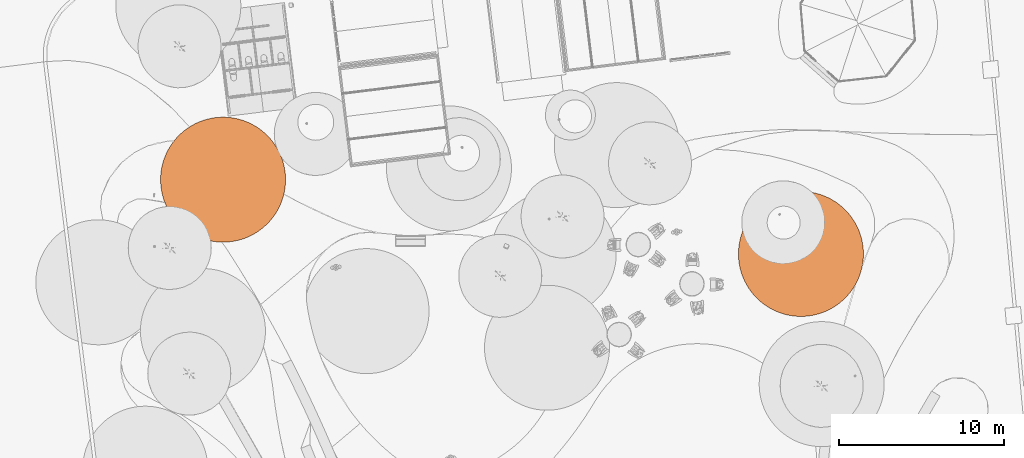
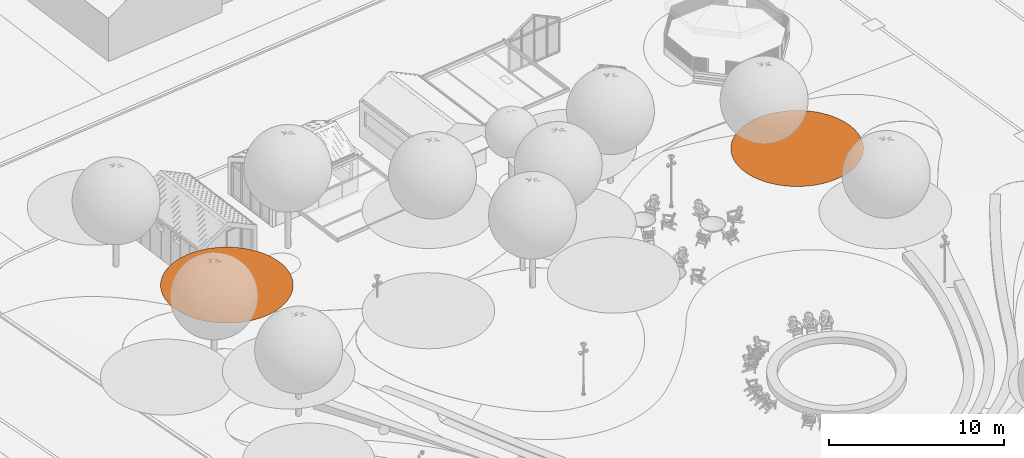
# One storey, part 73 of 75: 2 proxies.
"""IFC2X3 building model written with IfcOpenShell, lengths in metres."""

from ifc_helpers import new_model, entity, si_unit, converted_unit, derived_unit, direction, frame, origin, place, context, subcontext, project, spatial, face_set, surface_model, source, transform, mapped, material, type_object, type_shapes, element, save


model = new_model("IFC2X3")

# Units and contexts
model_context = context("Model", 3, precision=1e-05, world=origin(), true_north=direction((6.123031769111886e-17, 1.0)))
body_context = subcontext(model_context, "Body", "Model", "MODEL_VIEW")
ifc_project = project(units=[si_unit("LENGTHUNIT", "METRE"), si_unit("AREAUNIT", "SQUARE_METRE"), si_unit("VOLUMEUNIT", "CUBIC_METRE"), converted_unit("PLANEANGLEUNIT", "DEGREE", entity("IfcRatioMeasure", 0.017453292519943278), si_unit("PLANEANGLEUNIT", "RADIAN"), dimensions=[0, 0, 0, 0, 0, 0, 0]), si_unit("MASSUNIT", "GRAM", prefix="KILO"), derived_unit("MASSDENSITYUNIT", [(si_unit("MASSUNIT", "GRAM", prefix="KILO"), 1), (si_unit("LENGTHUNIT", "METRE"), -3)]), derived_unit("IONCONCENTRATIONUNIT", [(si_unit("MASSUNIT", "GRAM", prefix="KILO"), 1), (si_unit("LENGTHUNIT", "METRE"), -3)]), derived_unit("MOMENTOFINERTIAUNIT", [(si_unit("LENGTHUNIT", "METRE"), 4)]), si_unit("TIMEUNIT", "SECOND"), si_unit("FREQUENCYUNIT", "HERTZ"), si_unit("THERMODYNAMICTEMPERATUREUNIT", "DEGREE_CELSIUS"), derived_unit("THERMALTRANSMITTANCEUNIT", [(si_unit("MASSUNIT", "GRAM", prefix="KILO"), 1), (si_unit("THERMODYNAMICTEMPERATUREUNIT", "KELVIN"), -1), (si_unit("TIMEUNIT", "SECOND"), -3)]), derived_unit("THERMALCONDUCTANCEUNIT", [(si_unit("MASSUNIT", "GRAM", prefix="KILO"), 1), (si_unit("THERMODYNAMICTEMPERATUREUNIT", "KELVIN"), -1), (si_unit("TIMEUNIT", "SECOND"), -3), (si_unit("LENGTHUNIT", "METRE"), 1)]), derived_unit("VOLUMETRICFLOWRATEUNIT", [(si_unit("LENGTHUNIT", "METRE"), 3), (si_unit("TIMEUNIT", "SECOND"), -1)]), derived_unit("MASSFLOWRATEUNIT", [(si_unit("MASSUNIT", "GRAM", prefix="KILO"), 1), (si_unit("TIMEUNIT", "SECOND"), -1)]), derived_unit("ROTATIONALFREQUENCYUNIT", [(si_unit("TIMEUNIT", "SECOND"), -1)]), si_unit("ELECTRICCURRENTUNIT", "AMPERE"), si_unit("ELECTRICVOLTAGEUNIT", "VOLT"), si_unit("POWERUNIT", "WATT"), si_unit("FORCEUNIT", "NEWTON", prefix="KILO"), si_unit("ILLUMINANCEUNIT", "LUX"), si_unit("LUMINOUSFLUXUNIT", "LUMEN"), si_unit("LUMINOUSINTENSITYUNIT", "CANDELA"), derived_unit("USERDEFINED", [(si_unit("MASSUNIT", "GRAM", prefix="KILO"), -1), (si_unit("LENGTHUNIT", "METRE"), -2), (si_unit("TIMEUNIT", "SECOND"), 3), (si_unit("LUMINOUSFLUXUNIT", "LUMEN"), 1)]), derived_unit("USERDEFINED", [(si_unit("MASSUNIT", "GRAM", prefix="KILO"), 1), (si_unit("TIMEUNIT", "SECOND"), -3), (si_unit("LENGTHUNIT", "METRE"), 3), (si_unit("ELECTRICCURRENTUNIT", "AMPERE"), -2)]), derived_unit("SOUNDPOWERUNIT", [(si_unit("MASSUNIT", "GRAM", prefix="KILO"), 1), (si_unit("TIMEUNIT", "SECOND"), -3), (si_unit("LENGTHUNIT", "METRE"), 2)]), derived_unit("SOUNDPRESSUREUNIT", [(si_unit("MASSUNIT", "GRAM", prefix="KILO"), 1), (si_unit("LENGTHUNIT", "METRE"), -1), (si_unit("TIMEUNIT", "SECOND"), -2)]), derived_unit("LINEARVELOCITYUNIT", [(si_unit("LENGTHUNIT", "METRE"), 1), (si_unit("TIMEUNIT", "SECOND"), -1)]), si_unit("PRESSUREUNIT", "PASCAL"), derived_unit("USERDEFINED", [(si_unit("MASSUNIT", "GRAM", prefix="KILO"), 1), (si_unit("LENGTHUNIT", "METRE"), -2), (si_unit("TIMEUNIT", "SECOND"), -2)]), derived_unit("LINEARFORCEUNIT", [(si_unit("MASSUNIT", "GRAM", prefix="KILO"), 1), (si_unit("TIMEUNIT", "SECOND"), -2)]), derived_unit("PLANARFORCEUNIT", [(si_unit("MASSUNIT", "GRAM", prefix="KILO"), 1), (si_unit("LENGTHUNIT", "METRE"), -1), (si_unit("TIMEUNIT", "SECOND"), -2)]), derived_unit("SPECIFICHEATCAPACITYUNIT", [(si_unit("THERMODYNAMICTEMPERATUREUNIT", "KELVIN"), -1), (si_unit("LENGTHUNIT", "METRE"), 2), (si_unit("TIMEUNIT", "SECOND"), -2)]), derived_unit("HEATINGVALUEUNIT", [(si_unit("LENGTHUNIT", "METRE"), 2), (si_unit("TIMEUNIT", "SECOND"), -2)]), derived_unit("VAPORPERMEABILITYUNIT", [(si_unit("LENGTHUNIT", "METRE"), -1), (si_unit("TIMEUNIT", "SECOND"), 1)]), derived_unit("DYNAMICVISCOSITYUNIT", [(si_unit("MASSUNIT", "GRAM", prefix="KILO"), 1), (si_unit("TIMEUNIT", "SECOND"), -1), (si_unit("LENGTHUNIT", "METRE"), -1)]), derived_unit("THERMALEXPANSIONCOEFFICIENTUNIT", [(si_unit("THERMODYNAMICTEMPERATUREUNIT", "KELVIN"), -1)]), derived_unit("MODULUSOFELASTICITYUNIT", [(si_unit("MASSUNIT", "GRAM", prefix="KILO"), 1), (si_unit("LENGTHUNIT", "METRE"), -1), (si_unit("TIMEUNIT", "SECOND"), -2)]), derived_unit("ISOTHERMALMOISTURECAPACITYUNIT", [(si_unit("LENGTHUNIT", "METRE"), 3), (si_unit("MASSUNIT", "GRAM", prefix="KILO"), -1)]), derived_unit("MOISTUREDIFFUSIVITYUNIT", [(si_unit("TIMEUNIT", "SECOND"), -1), (si_unit("LENGTHUNIT", "METRE"), 2)])], contexts=[model_context])

# Site, building, storey
site_placement = place(None, origin())
site = spatial("IfcSite", under=ifc_project, at=site_placement, Name="Default", CompositionType="ELEMENT")
building_placement = place(site_placement, origin())
building = spatial("IfcBuilding", under=site, at=building_placement, Name="Projeto", CompositionType="ELEMENT")
storey_placement = place(building_placement, origin())
storey = spatial("IfcBuildingStorey", under=building, at=storey_placement, Name="Nível 1", CompositionType="ELEMENT", Elevation=0.0)

# Proxies
ifc_material = material(Name="<Unnamed>")
building_element_proxy_type = type_object("IfcBuildingElementProxyType", Name="Arvore simplificada:Arvore simplificada", PredefinedType="NOTDEFINED", material=ifc_material)
shared_shape = source(origin(), body_context, "Body", "SurfaceModel", [
    surface_model("IfcFaceBasedSurfaceModel", [(-3.9544974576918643, -0.18317979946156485, 0.0), (-3.9483138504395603, -0.3996342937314, 0.0), (-3.929783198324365, -0.6153827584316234, 0.0), (-3.8989659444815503, -0.8297214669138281, 0.0), (-3.855962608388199, -1.0419512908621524, 0.0), (-3.8009134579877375, -1.2513799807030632, 0.0), (-3.733998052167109, -1.4573244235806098, 0.0), (-3.655434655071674, -1.6591128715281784, 0.0), (-3.5654795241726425, -1.8560871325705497, 0.0), (-3.4644260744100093, -2.0476047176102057, 0.0), (-3.3526039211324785, -2.2330409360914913, 0.0), (-3.2303778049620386, -2.411790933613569, 0.0), (-3.098146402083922, -2.583271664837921, 0.0), (-2.9563410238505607, -2.7469237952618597, 0.0), (-2.8054242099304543, -2.9022135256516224, 0.0), (-2.6458882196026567, -3.048634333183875, 0.0), (-2.4782534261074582, -3.1857086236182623, 0.0), (-2.3030666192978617, -3.3129892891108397, 0.0), (-2.12089922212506, -3.430061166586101, 0.0), (-1.93234542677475, -3.5365423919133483, 0.0), (-1.7380202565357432, -3.632085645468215, 0.0), (-1.5385575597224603, -3.7163792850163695, 0.0), (-1.3346079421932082, -3.789148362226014, 0.0), (-1.1268366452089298, -3.8501555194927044, 0.0), (-0.9159213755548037, -3.8992017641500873, 0.0), (-0.7025500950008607, -3.9361271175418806, 0.0), (-0.48741877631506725, -3.9608111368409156, 0.0), (-0.2712291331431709, -3.9731733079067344, 0.0), (-0.054686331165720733, -3.9731733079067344, 0.0), (0.16150331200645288, -3.9608111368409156, 0.0), (0.3766346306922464, -3.9361271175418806, 0.0), (0.5900059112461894, -3.8992017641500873, 0.0), (0.8009211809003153, -3.8501555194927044, 0.0), (1.0086924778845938, -3.789148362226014, 0.0), (1.212642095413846, -3.7163792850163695, 0.0), (1.4121047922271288, -3.632085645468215, 0.0), (1.6064299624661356, -3.5365423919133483, 0.0), (1.7949837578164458, -3.430061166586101, 0.0), (1.9771511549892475, -3.3129892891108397, 0.0), (2.152337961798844, -3.1857086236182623, 0.0), (2.3199727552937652, -3.048634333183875, 0.0), (2.479508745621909, -2.9022135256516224, 0.0), (2.6304255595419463, -2.7469237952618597, 0.0), (2.7722309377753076, -2.583271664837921, 0.0), (2.9044623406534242, -2.411790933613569, 0.0), (3.026688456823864, -2.2330409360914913, 0.0), (3.138510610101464, -2.0476047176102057, 0.0), (3.239564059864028, -1.8560871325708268, 0.0), (3.3295191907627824, -1.6591128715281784, 0.0), (3.4080825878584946, -1.4573244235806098, 0.0), (3.474997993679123, -1.2513799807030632, 0.0), (3.5300471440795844, -1.0419512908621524, 0.0), (3.573050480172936, -0.8297214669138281, 0.0), (3.6038677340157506, -0.6153827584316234, 0.0), (3.622398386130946, -0.3996342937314, 0.0), (3.62858199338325, -0.18317979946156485, 0.0), (3.622398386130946, 0.03327469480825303, 0.0), (3.6038677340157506, 0.24902315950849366, 0.0), (3.573050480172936, 0.4633618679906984, 0.0), (3.5300471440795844, 0.6755916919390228, 0.0), (3.474997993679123, 0.8850203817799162, 0.0), (3.4080825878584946, 1.0909648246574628, 0.0), (3.3295191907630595, 1.2927532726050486, 0.0), (3.239564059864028, 1.4897275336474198, 0.0), (3.138510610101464, 1.6812451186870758, 0.0), (3.026688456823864, 1.8666813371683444, 0.0), (2.9044623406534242, 2.0454313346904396, 0.0), (2.7722309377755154, 2.2169120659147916, 0.0), (2.6304255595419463, 2.38056419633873, 0.0), (2.479508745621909, 2.535853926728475, 0.0), (2.3199727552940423, 2.682274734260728, 0.0), (2.152337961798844, 2.819349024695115, 0.0), (1.9771511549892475, 2.946629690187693, 0.0), (1.7949837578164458, 3.063701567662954, 0.0), (1.6064299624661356, 3.1701827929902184, 0.0), (1.4121047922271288, 3.265726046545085, 0.0), (1.212642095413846, 3.3500196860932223, 0.0), (1.0086924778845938, 3.422788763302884, 0.0), (0.8009211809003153, 3.4837959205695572, 0.0), (0.5900059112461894, 3.5328421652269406, 0.0), (0.3766346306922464, 3.5697675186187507, 0.0), (0.16150331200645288, 3.5944515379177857, 0.0), (-0.05468633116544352, 3.606813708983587, 0.0), (-0.27122913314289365, 3.606813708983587, 0.0), (-0.48741877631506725, 3.5944515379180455, 0.0), (-0.7025500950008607, 3.5697675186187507, 0.0), (-0.9159213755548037, 3.5328421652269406, 0.0), (-1.1268366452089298, 3.4837959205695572, 0.0), (-1.3346079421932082, 3.422788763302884, 0.0), (-1.5385575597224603, 3.3500196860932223, 0.0), (-1.7380202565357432, 3.265726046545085, 0.0), (-1.93234542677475, 3.1701827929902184, 0.0), (-2.12089922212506, 3.063701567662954, 0.0), (-2.3030666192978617, 2.946629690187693, 0.0), (-2.4782534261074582, 2.819349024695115, 0.0), (-2.6458882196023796, 2.682274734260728, 0.0), (-2.8054242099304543, 2.535853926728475, 0.0), (-2.9563410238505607, 2.38056419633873, 0.0), (-3.098146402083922, 2.2169120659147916, 0.0), (-3.2303778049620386, 2.0454313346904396, 0.0), (-3.3526039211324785, 1.8666813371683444, 0.0), (-3.4644260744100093, 1.6812451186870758, 0.0), (-3.5654795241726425, 1.4897275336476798, 0.0), (-3.6554346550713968, 1.2927532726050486, 0.0), (-3.733998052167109, 1.0909648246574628, 0.0), (-3.8009134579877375, 0.8850203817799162, 0.0), (-3.855962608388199, 0.6755916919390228, 0.0), (-3.8989659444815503, 0.4633618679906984, 0.0), (-3.929783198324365, 0.24902315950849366, 0.0), (-3.9483138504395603, 0.03327469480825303, 0.0)], [face_set([[[0, 1, 2, 3, 4, 5, 6, 7, 8, 9, 10, 11, 12, 13, 14, 15, 16, 17, 18, 19, 20, 21, 22, 23, 24, 25, 26, 27, 28, 29, 30, 31, 32, 33, 34, 35, 36, 37, 38, 39, 40, 41, 42, 43, 44, 45, 46, 47, 48, 49, 50, 51, 52, 53, 54, 55, 56, 57, 58, 59, 60, 61, 62, 63, 64, 65, 66, 67, 68, 69, 70, 71, 72, 73, 74, 75, 76, 77, 78, 79, 80, 81, 82, 83, 84, 85, 86, 87, 88, 89, 90, 91, 92, 93, 94, 95, 96, 97, 98, 99, 100, 101, 102, 103, 104, 105, 106, 107, 108, 109]]])]),
])
type_shapes(building_element_proxy_type, [shared_shape])
for number, where, z_axis, x_axis in (
    (1, (16.69210417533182, 17.825500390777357, 0.0), (0.0, 0.0, 1.0), (0.9422539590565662, 0.3348992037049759, 0.0)),
    (2, (-18.368641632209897, 22.330702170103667, 0.0), (0.0, 0.0, 1.0), (0.9422539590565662, 0.3348992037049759, 0.0)),
):
    element("IfcBuildingElementProxy", number, at=place(storey_placement, frame(where, z_axis=z_axis, x_axis=x_axis)), inside=storey, type_object=building_element_proxy_type, material=ifc_material, Name="Arvore simplificada:Arvore simplificada", ObjectType="Arvore simplificada:Arvore simplificada", context=body_context, shape_type="MappedRepresentation", body=[
        mapped(shared_shape, transform((0.0, 0.0, 0.0), scale=1.0)),
    ])

save(model, "model.ifc")
